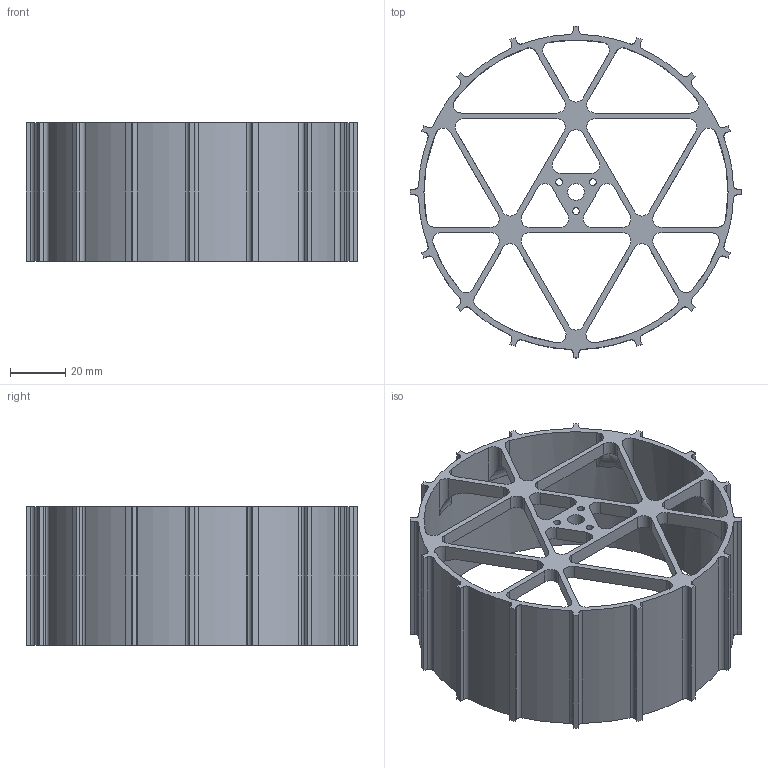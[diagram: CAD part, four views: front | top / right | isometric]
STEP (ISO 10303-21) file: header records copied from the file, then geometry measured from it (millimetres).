
FILE_DESCRIPTION (( 'STEP AP214' ), '1' );
FILE_NAME ('Baasversioon.STEP', '2025-05-19T12:08:36', ( '' ), ( '' ), 'SwSTEP 2.0', 'SolidWorks 2024', '' );
FILE_SCHEMA (( 'AUTOMOTIVE_DESIGN' ));
Length unit declared in the file: millimetre
Products named in the file (1): Baasversioon
Bounding box: 120 x 120 x 50 mm (x, y, z)
Volume: 49668 mm3; surface area: 49236.6 mm2
Topology: 1 solids, 1 shells, 238 faces, 729 edges, 479 vertices
Faces by surface type: cylinder 140, plane 71, torus 18, bspline 9
Entity records: 11217 total; most frequent: CARTESIAN_POINT 4505, ORIENTED_EDGE 1452, DIRECTION 1415, EDGE_CURVE 726, AXIS2_PLACEMENT_3D 528, VERTEX_POINT 479, VECTOR 359, LINE 359
